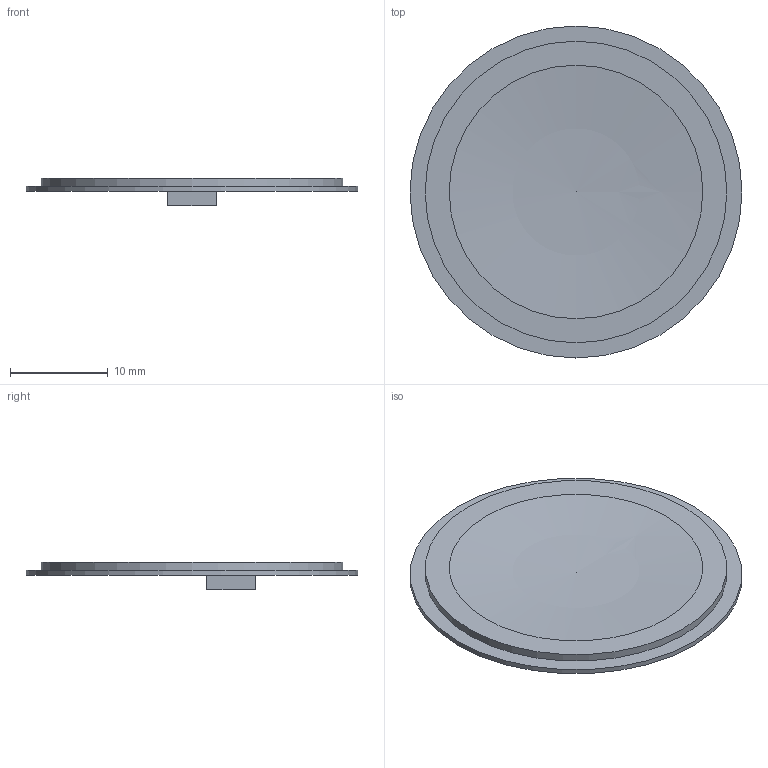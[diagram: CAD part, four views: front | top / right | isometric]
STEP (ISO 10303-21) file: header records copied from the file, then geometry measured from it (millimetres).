
FILE_DESCRIPTION(('Open CASCADE Model'),'2;1');
FILE_NAME('Open CASCADE Shape Model','2026-09-04T20:58:22',('Author'),( 'Open CASCADE'),'Open CASCADE STEP processor 7.7','Open CASCADE 7.7' ,'Unknown');
FILE_SCHEMA(('AUTOMOTIVE_DESIGN { 1 0 10303 214 1 1 1 1 }'));
Length unit declared in the file: millimetre
Products named in the file (1): Open CASCADE STEP translator 7.7 21
Bounding box: 33.9 x 33.9 x 2.8 mm (x, y, z)
Volume: 926.7 mm3; surface area: 1967 mm2
Topology: 1 solids, 1 shells, 11 faces, 21 edges, 14 vertices
Faces by surface type: plane 8, cylinder 2, sphere 1
Full cylindrical faces by diameter (mm): 30.8 x1, 33.9 x1
Entity records: 546 total; most frequent: DIRECTION 90, CARTESIAN_POINT 86, LINE 49, VECTOR 49, ORIENTED_EDGE 40, PCURVE 40, DEFINITIONAL_REPRESENTATION 40, EDGE_CURVE 20
